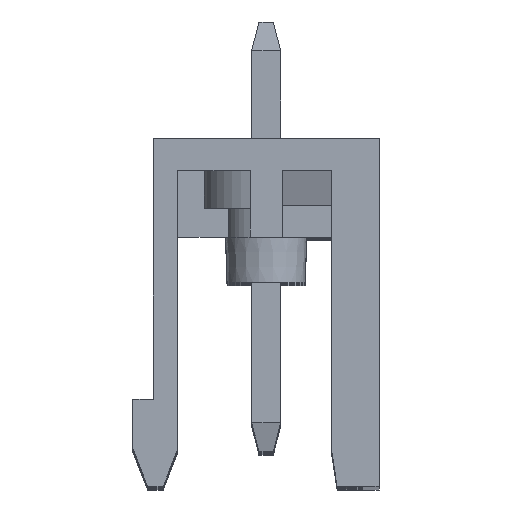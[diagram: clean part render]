
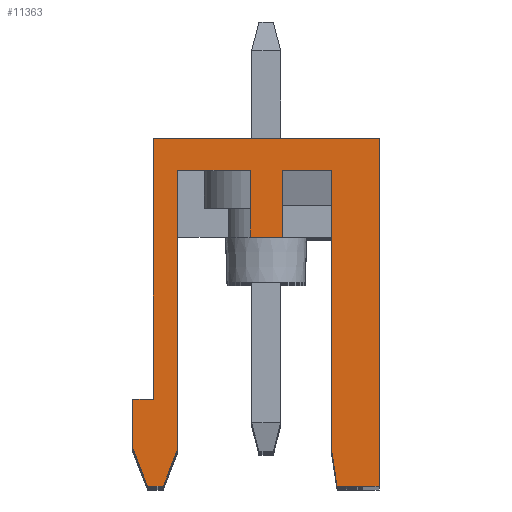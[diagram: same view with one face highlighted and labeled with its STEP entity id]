
A CAD part, top view. The second image highlights one B-rep face of the part: STEP entity #11363.
In plain terms, the highlighted planar face has unit normal (0, 0, 1).
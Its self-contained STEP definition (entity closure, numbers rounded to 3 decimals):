
#257 = DIRECTION ( 'NONE',  ( 0., -1., 0. ) ) ;
#493 = ORIENTED_EDGE ( 'NONE', *, *, #30622, .F. ) ;
#880 = CARTESIAN_POINT ( 'NONE',  ( -0.55, 8.6, 76.2 ) ) ;
#1079 = VECTOR ( 'NONE', #6528, 1000. ) ;
#1350 = LINE ( 'NONE', #11659, #1079 ) ;
#1882 = VECTOR ( 'NONE', #257, 1000. ) ;
#1911 = DIRECTION ( 'NONE',  ( 1., 0., 0. ) ) ;
#2535 = LINE ( 'NONE', #26050, #32387 ) ;
#2559 = CARTESIAN_POINT ( 'NONE',  ( 3.9, 12., 76.2 ) ) ;
#2765 = ORIENTED_EDGE ( 'NONE', *, *, #20600, .T. ) ;
#2930 = AXIS2_PLACEMENT_3D ( 'NONE', #27871, #35849, #9862 ) ;
#2986 = VERTEX_POINT ( 'NONE', #18247 ) ;
#3480 = LINE ( 'NONE', #21109, #22021 ) ;
#3530 = DIRECTION ( 'NONE',  ( -0.359, 0.933, 0. ) ) ;
#3803 = CARTESIAN_POINT ( 'NONE',  ( 2.45, 0., 76.2 ) ) ;
#4188 = CARTESIAN_POINT ( 'NONE',  ( -0.55, 10.9, 76.2 ) ) ;
#4491 = EDGE_CURVE ( 'NONE', #34892, #35820, #30925, .T. ) ;
#4800 = CARTESIAN_POINT ( 'NONE',  ( 2.45, 0., 76.2 ) ) ;
#5036 = CARTESIAN_POINT ( 'NONE',  ( 3.9, 12., 76.2 ) ) ;
#5190 = VECTOR ( 'NONE', #22433, 1000. ) ;
#5376 = EDGE_CURVE ( 'NONE', #26761, #15475, #23241, .T. ) ;
#5948 = LINE ( 'NONE', #20184, #1882 ) ;
#5973 = EDGE_CURVE ( 'NONE', #27894, #2986, #30726, .T. ) ;
#6355 = VERTEX_POINT ( 'NONE', #16461 ) ;
#6528 = DIRECTION ( 'NONE',  ( 0., -1., 0. ) ) ;
#7057 = EDGE_CURVE ( 'NONE', #11323, #29557, #1350, .T. ) ;
#7351 = VECTOR ( 'NONE', #15754, 1000. ) ;
#7659 = LINE ( 'NONE', #4800, #5190 ) ;
#7990 = CARTESIAN_POINT ( 'NONE',  ( -3.9, 3., 76.2 ) ) ;
#8105 = EDGE_CURVE ( 'NONE', #24873, #6355, #17169, .T. ) ;
#8152 = ORIENTED_EDGE ( 'NONE', *, *, #13892, .T. ) ;
#8481 = CARTESIAN_POINT ( 'NONE',  ( -3.9, 12., 76.2 ) ) ;
#8636 = ORIENTED_EDGE ( 'NONE', *, *, #14438, .F. ) ;
#9078 = VECTOR ( 'NONE', #3530, 1000. ) ;
#9093 = CARTESIAN_POINT ( 'NONE',  ( -0.55, 10.9, 76.2 ) ) ;
#9216 = LINE ( 'NONE', #20421, #9078 ) ;
#9862 = DIRECTION ( 'NONE',  ( 1., 0., 0. ) ) ;
#10425 = PLANE ( 'NONE',  #2930 ) ;
#10820 = ORIENTED_EDGE ( 'NONE', *, *, #5376, .T. ) ;
#11323 = VERTEX_POINT ( 'NONE', #33185 ) ;
#11363 = ADVANCED_FACE ( 'NONE', ( #36049 ), #10425, .T. ) ;
#11659 = CARTESIAN_POINT ( 'NONE',  ( -4.6, 3., 76.2 ) ) ;
#12027 = LINE ( 'NONE', #36301, #33432 ) ;
#12148 = VECTOR ( 'NONE', #28550, 1000. ) ;
#12152 = VECTOR ( 'NONE', #29832, 1000. ) ;
#12264 = LINE ( 'NONE', #35031, #20115 ) ;
#12423 = ORIENTED_EDGE ( 'NONE', *, *, #35050, .T. ) ;
#12538 = CARTESIAN_POINT ( 'NONE',  ( -3.55, 0., 76.2 ) ) ;
#12618 = DIRECTION ( 'NONE',  ( 0.152, -0.988, 0. ) ) ;
#13076 = EDGE_CURVE ( 'NONE', #26761, #29557, #9216, .T. ) ;
#13892 = EDGE_CURVE ( 'NONE', #2986, #15534, #5948, .T. ) ;
#13917 = EDGE_CURVE ( 'NONE', #34892, #27894, #14110, .T. ) ;
#13942 = CARTESIAN_POINT ( 'NONE',  ( -3.05, 10.9, 76.2 ) ) ;
#14110 = LINE ( 'NONE', #25671, #36412 ) ;
#14438 = EDGE_CURVE ( 'NONE', #15925, #24873, #33754, .T. ) ;
#14478 = ORIENTED_EDGE ( 'NONE', *, *, #13076, .F. ) ;
#15290 = DIRECTION ( 'NONE',  ( 0., 1., 0. ) ) ;
#15418 = CARTESIAN_POINT ( 'NONE',  ( -4.6, 1.3, 76.2 ) ) ;
#15475 = VERTEX_POINT ( 'NONE', #12538 ) ;
#15534 = VERTEX_POINT ( 'NONE', #32455 ) ;
#15598 = VECTOR ( 'NONE', #12618, 1000. ) ;
#15754 = DIRECTION ( 'NONE',  ( -1., 0., 0. ) ) ;
#15925 = VERTEX_POINT ( 'NONE', #9093 ) ;
#16139 = VERTEX_POINT ( 'NONE', #8481 ) ;
#16461 = CARTESIAN_POINT ( 'NONE',  ( -3.05, 1.3, 76.2 ) ) ;
#16799 = EDGE_CURVE ( 'NONE', #24939, #11323, #12027, .T. ) ;
#16983 = LINE ( 'NONE', #5036, #12148 ) ;
#17169 = LINE ( 'NONE', #13942, #27773 ) ;
#18247 = CARTESIAN_POINT ( 'NONE',  ( 2.25, 10.9, 76.2 ) ) ;
#18466 = LINE ( 'NONE', #29466, #12152 ) ;
#18667 = VERTEX_POINT ( 'NONE', #24671 ) ;
#19182 = CARTESIAN_POINT ( 'NONE',  ( 0.55, 10.9, 76.2 ) ) ;
#20115 = VECTOR ( 'NONE', #15290, 1000. ) ;
#20130 = CARTESIAN_POINT ( 'NONE',  ( -4.1, 0., 76.2 ) ) ;
#20184 = CARTESIAN_POINT ( 'NONE',  ( 2.25, 10.9, 76.2 ) ) ;
#20421 = CARTESIAN_POINT ( 'NONE',  ( -4.1, 0., 76.2 ) ) ;
#20600 = EDGE_CURVE ( 'NONE', #28072, #18667, #7659, .T. ) ;
#20698 = CARTESIAN_POINT ( 'NONE',  ( 0.55, 10.9, 76.2 ) ) ;
#21109 = CARTESIAN_POINT ( 'NONE',  ( -3.9, 12., 76.2 ) ) ;
#21700 = VERTEX_POINT ( 'NONE', #2559 ) ;
#22021 = VECTOR ( 'NONE', #32109, 1000. ) ;
#22180 = VECTOR ( 'NONE', #28753, 1000. ) ;
#22339 = ORIENTED_EDGE ( 'NONE', *, *, #33377, .T. ) ;
#22348 = ORIENTED_EDGE ( 'NONE', *, *, #8105, .F. ) ;
#22433 = DIRECTION ( 'NONE',  ( 1., 0., 0. ) ) ;
#22799 = EDGE_CURVE ( 'NONE', #21700, #16139, #16983, .T. ) ;
#22819 = VECTOR ( 'NONE', #1911, 1000. ) ;
#23241 = LINE ( 'NONE', #31963, #22180 ) ;
#23810 = CARTESIAN_POINT ( 'NONE',  ( 2.25, 1.3, 76.2 ) ) ;
#24544 = CARTESIAN_POINT ( 'NONE',  ( -3.05, 10.9, 76.2 ) ) ;
#24590 = ORIENTED_EDGE ( 'NONE', *, *, #13917, .T. ) ;
#24671 = CARTESIAN_POINT ( 'NONE',  ( 3.9, 0., 76.2 ) ) ;
#24873 = VERTEX_POINT ( 'NONE', #24544 ) ;
#24939 = VERTEX_POINT ( 'NONE', #7990 ) ;
#25615 = CARTESIAN_POINT ( 'NONE',  ( 0.55, 8.6, 76.2 ) ) ;
#25671 = CARTESIAN_POINT ( 'NONE',  ( 0.55, 8.6, 76.2 ) ) ;
#26050 = CARTESIAN_POINT ( 'NONE',  ( -3.05, 1.3, 76.2 ) ) ;
#26347 = ORIENTED_EDGE ( 'NONE', *, *, #16799, .T. ) ;
#26761 = VERTEX_POINT ( 'NONE', #20130 ) ;
#26996 = DIRECTION ( 'NONE',  ( -1., 0., 0. ) ) ;
#27407 = ORIENTED_EDGE ( 'NONE', *, *, #5973, .T. ) ;
#27416 = EDGE_CURVE ( 'NONE', #16139, #24939, #3480, .T. ) ;
#27773 = VECTOR ( 'NONE', #28740, 1000. ) ;
#27871 = CARTESIAN_POINT ( 'NONE',  ( -10.2, 16.267, 76.2 ) ) ;
#27894 = VERTEX_POINT ( 'NONE', #20698 ) ;
#28072 = VERTEX_POINT ( 'NONE', #3803 ) ;
#28550 = DIRECTION ( 'NONE',  ( -1., 0., 0. ) ) ;
#28719 = CARTESIAN_POINT ( 'NONE',  ( 0.55, 8.6, 76.2 ) ) ;
#28740 = DIRECTION ( 'NONE',  ( 0., -1., 0. ) ) ;
#28753 = DIRECTION ( 'NONE',  ( 1., 0., 0. ) ) ;
#28853 = DIRECTION ( 'NONE',  ( -1., 0., 0. ) ) ;
#29466 = CARTESIAN_POINT ( 'NONE',  ( -0.55, 10.9, 76.2 ) ) ;
#29557 = VERTEX_POINT ( 'NONE', #15418 ) ;
#29832 = DIRECTION ( 'NONE',  ( 0., -1., 0. ) ) ;
#30461 = EDGE_LOOP ( 'NONE', ( #34930, #35410, #37104, #26347, #32213, #14478, #10820, #493, #22348, #8636, #12423, #37125, #24590, #27407, #8152, #22339, #2765 ) ) ;
#30622 = EDGE_CURVE ( 'NONE', #6355, #15475, #2535, .T. ) ;
#30726 = LINE ( 'NONE', #19182, #22819 ) ;
#30925 = LINE ( 'NONE', #25615, #33035 ) ;
#31963 = CARTESIAN_POINT ( 'NONE',  ( -4.1, 0., 76.2 ) ) ;
#32109 = DIRECTION ( 'NONE',  ( 0., -1., 0. ) ) ;
#32213 = ORIENTED_EDGE ( 'NONE', *, *, #7057, .T. ) ;
#32387 = VECTOR ( 'NONE', #37448, 1000. ) ;
#32455 = CARTESIAN_POINT ( 'NONE',  ( 2.25, 1.3, 76.2 ) ) ;
#33035 = VECTOR ( 'NONE', #28853, 1000. ) ;
#33185 = CARTESIAN_POINT ( 'NONE',  ( -4.6, 3., 76.2 ) ) ;
#33377 = EDGE_CURVE ( 'NONE', #15534, #28072, #35197, .T. ) ;
#33432 = VECTOR ( 'NONE', #26996, 1000. ) ;
#33754 = LINE ( 'NONE', #4188, #7351 ) ;
#34892 = VERTEX_POINT ( 'NONE', #28719 ) ;
#34930 = ORIENTED_EDGE ( 'NONE', *, *, #36456, .T. ) ;
#35031 = CARTESIAN_POINT ( 'NONE',  ( 3.9, 0., 76.2 ) ) ;
#35050 = EDGE_CURVE ( 'NONE', #15925, #35820, #18466, .T. ) ;
#35197 = LINE ( 'NONE', #23810, #15598 ) ;
#35410 = ORIENTED_EDGE ( 'NONE', *, *, #22799, .T. ) ;
#35820 = VERTEX_POINT ( 'NONE', #880 ) ;
#35849 = DIRECTION ( 'NONE',  ( 0., 0., 1. ) ) ;
#36049 = FACE_OUTER_BOUND ( 'NONE', #30461, .T. ) ;
#36301 = CARTESIAN_POINT ( 'NONE',  ( -3.9, 3., 76.2 ) ) ;
#36412 = VECTOR ( 'NONE', #37265, 1000. ) ;
#36456 = EDGE_CURVE ( 'NONE', #18667, #21700, #12264, .T. ) ;
#37104 = ORIENTED_EDGE ( 'NONE', *, *, #27416, .T. ) ;
#37125 = ORIENTED_EDGE ( 'NONE', *, *, #4491, .F. ) ;
#37265 = DIRECTION ( 'NONE',  ( 0., 1., 0. ) ) ;
#37448 = DIRECTION ( 'NONE',  ( -0.359, -0.933, 0. ) ) ;
